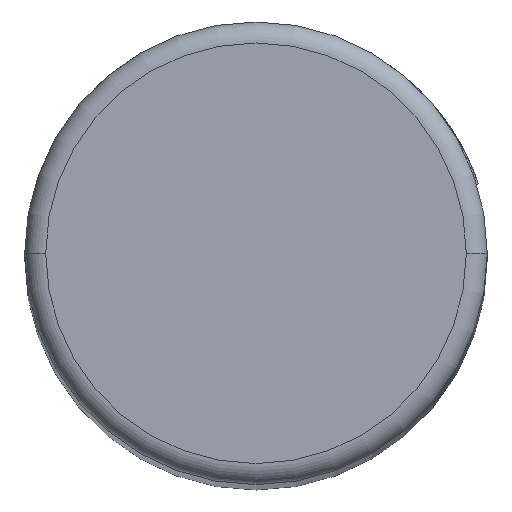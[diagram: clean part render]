
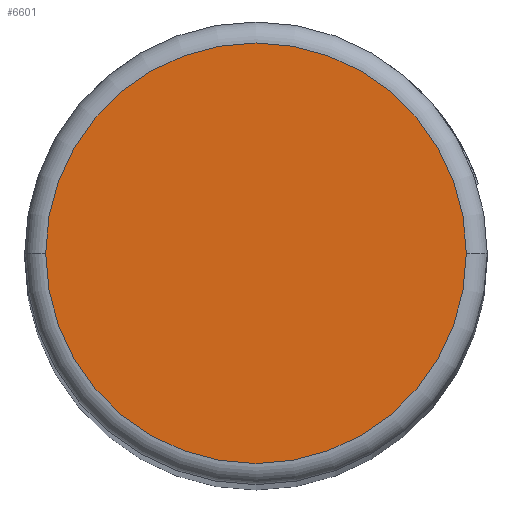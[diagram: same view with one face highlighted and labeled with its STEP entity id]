
A CAD part, top view. The second image highlights one B-rep face of the part: STEP entity #6601.
In plain terms, the highlighted planar face has unit normal (0, 0, 1).
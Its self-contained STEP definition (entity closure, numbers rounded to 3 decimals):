
#1660=CARTESIAN_POINT('',(0.,0.,74.25));
#1661=DIRECTION('',(0.,0.,1.));
#1662=DIRECTION('',(-1.,0.,0.));
#1663=AXIS2_PLACEMENT_3D('',#1660,#1661,#1662);
#1665=CARTESIAN_POINT('',(0.,0.,74.25));
#1666=DIRECTION('',(0.,0.,1.));
#1667=DIRECTION('',(1.,0.,0.));
#1668=AXIS2_PLACEMENT_3D('',#1665,#1666,#1667);
#4860=CARTESIAN_POINT('',(-10.,0.,74.25));
#4861=CARTESIAN_POINT('',(10.,0.,74.25));
#4862=VERTEX_POINT('',#4860);
#4863=VERTEX_POINT('',#4861);
#6591=CARTESIAN_POINT('',(0.,0.,74.25));
#6592=DIRECTION('',(0.,0.,1.));
#6593=DIRECTION('',(1.,0.,0.));
#6594=AXIS2_PLACEMENT_3D('',#6591,#6592,#6593);
#6595=PLANE('',#6594);
#6596=ORIENTED_EDGE('',*,*,#6581,.F.);
#6598=ORIENTED_EDGE('',*,*,#6597,.F.);
#6599=EDGE_LOOP('',(#6596,#6598));
#6600=FACE_OUTER_BOUND('',#6599,.F.);
#6601=ADVANCED_FACE('',(#6600),#6595,.T.);
#1664=CIRCLE('',#1663,10.);
#1669=CIRCLE('',#1668,10.);
#6581=EDGE_CURVE('',#4862,#4863,#1664,.T.);
#6597=EDGE_CURVE('',#4863,#4862,#1669,.T.);
